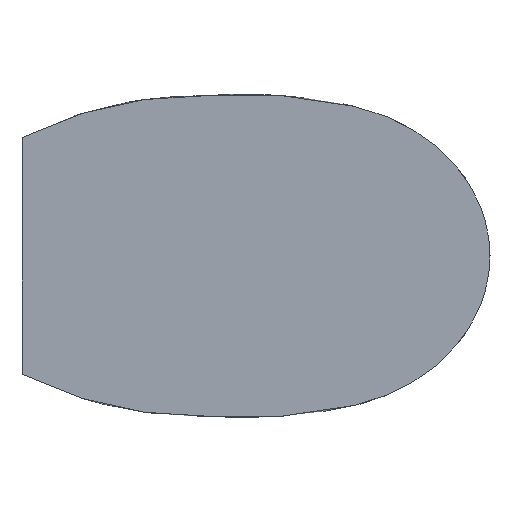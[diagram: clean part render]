
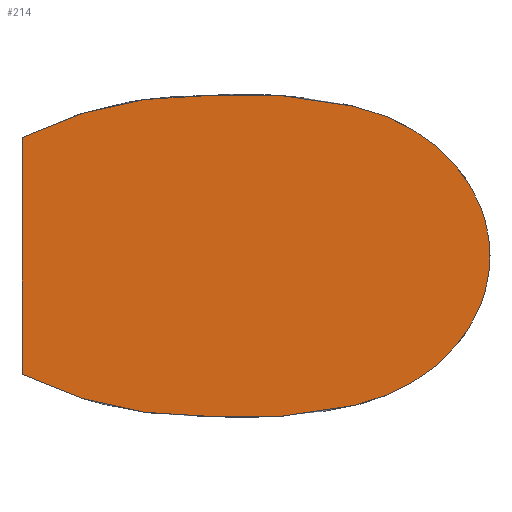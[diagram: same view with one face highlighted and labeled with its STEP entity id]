
A CAD part, left-side view. The second image highlights one B-rep face of the part: STEP entity #214.
In plain terms, the highlighted planar face has unit normal (-1, 0, 0).
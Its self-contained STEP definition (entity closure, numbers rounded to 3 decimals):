
#2=DIRECTION('',(0.,0.,-1.));
#3=VECTOR('',#2,2.127);
#4=CARTESIAN_POINT('',(-9.,-0.3,1.064));
#5=LINE('',#4,#3);
#10=CARTESIAN_POINT('',(-9.,-0.3,1.064));
#11=CARTESIAN_POINT('',(-9.,-0.453,1.141));
#12=CARTESIAN_POINT('',(-9.,-0.688,1.237));
#13=CARTESIAN_POINT('',(-9.,-1.01,1.331));
#14=CARTESIAN_POINT('',(-9.,-1.256,1.384));
#15=CARTESIAN_POINT('',(-9.,-1.466,1.414));
#16=CARTESIAN_POINT('',(-9.,-1.637,1.428));
#17=CARTESIAN_POINT('',(-9.,-1.745,1.433));
#18=CARTESIAN_POINT('',(-9.,-1.821,1.435));
#19=CARTESIAN_POINT('',(-9.,-1.864,1.435));
#20=CARTESIAN_POINT('',(-9.,-1.897,1.434));
#21=CARTESIAN_POINT('',(-9.,-1.93,1.437));
#22=CARTESIAN_POINT('',(-9.,-1.974,1.44));
#23=CARTESIAN_POINT('',(-9.,-2.052,1.445));
#24=CARTESIAN_POINT('',(-9.,-2.163,1.45));
#25=CARTESIAN_POINT('',(-9.,-2.311,1.452));
#26=CARTESIAN_POINT('',(-9.,-2.472,1.449));
#27=CARTESIAN_POINT('',(-9.,-2.648,1.439));
#28=CARTESIAN_POINT('',(-9.,-2.825,1.422));
#29=CARTESIAN_POINT('',(-9.,-3.004,1.397));
#30=CARTESIAN_POINT('',(-9.,-3.184,1.365));
#31=CARTESIAN_POINT('',(-9.,-3.425,1.312));
#32=CARTESIAN_POINT('',(-9.,-3.717,1.199));
#33=CARTESIAN_POINT('',(-9.,-4.034,0.991));
#34=CARTESIAN_POINT('',(-9.,-4.292,0.711));
#35=CARTESIAN_POINT('',(-9.,-4.463,0.371));
#36=CARTESIAN_POINT('',(-9.,-4.502,0.123));
#37=CARTESIAN_POINT('',(-9.,-4.502,0.));
#39=CARTESIAN_POINT('',(-9.,-0.3,-1.064));
#40=CARTESIAN_POINT('',(-9.,-0.453,-1.141));
#41=CARTESIAN_POINT('',(-9.,-0.688,-1.237));
#42=CARTESIAN_POINT('',(-9.,-1.01,-1.331));
#43=CARTESIAN_POINT('',(-9.,-1.256,-1.384));
#44=CARTESIAN_POINT('',(-9.,-1.466,-1.414));
#45=CARTESIAN_POINT('',(-9.,-1.637,-1.428));
#46=CARTESIAN_POINT('',(-9.,-1.745,-1.433));
#47=CARTESIAN_POINT('',(-9.,-1.821,-1.435));
#48=CARTESIAN_POINT('',(-9.,-1.864,-1.435));
#49=CARTESIAN_POINT('',(-9.,-1.897,-1.434));
#50=CARTESIAN_POINT('',(-9.,-1.93,-1.437));
#51=CARTESIAN_POINT('',(-9.,-1.974,-1.44));
#52=CARTESIAN_POINT('',(-9.,-2.052,-1.445));
#53=CARTESIAN_POINT('',(-9.,-2.163,-1.45));
#54=CARTESIAN_POINT('',(-9.,-2.311,-1.452));
#55=CARTESIAN_POINT('',(-9.,-2.472,-1.449));
#56=CARTESIAN_POINT('',(-9.,-2.648,-1.439));
#57=CARTESIAN_POINT('',(-9.,-2.825,-1.422));
#58=CARTESIAN_POINT('',(-9.,-3.004,-1.397));
#59=CARTESIAN_POINT('',(-9.,-3.184,-1.365));
#60=CARTESIAN_POINT('',(-9.,-3.425,-1.312));
#61=CARTESIAN_POINT('',(-9.,-3.717,-1.199));
#62=CARTESIAN_POINT('',(-9.,-4.034,-0.991));
#63=CARTESIAN_POINT('',(-9.,-4.292,-0.711));
#64=CARTESIAN_POINT('',(-9.,-4.463,-0.371));
#65=CARTESIAN_POINT('',(-9.,-4.502,-0.123));
#66=CARTESIAN_POINT('',(-9.,-4.502,0.));
#179=CARTESIAN_POINT('',(-9.,-0.3,1.064));
#180=CARTESIAN_POINT('',(-9.,-0.3,-1.064));
#181=VERTEX_POINT('',#179);
#182=VERTEX_POINT('',#180);
#183=VERTEX_POINT('',#37);
#202=CARTESIAN_POINT('',(-9.,0.,0.));
#203=DIRECTION('',(1.,0.,0.));
#204=DIRECTION('',(0.,0.,-1.));
#205=AXIS2_PLACEMENT_3D('',#202,#203,#204);
#206=PLANE('',#205);
#207=ORIENTED_EDGE('',*,*,#189,.F.);
#209=ORIENTED_EDGE('',*,*,#208,.T.);
#211=ORIENTED_EDGE('',*,*,#210,.F.);
#212=EDGE_LOOP('',(#207,#209,#211));
#213=FACE_OUTER_BOUND('',#212,.F.);
#214=ADVANCED_FACE('',(#213),#206,.F.);
#38=B_SPLINE_CURVE_WITH_KNOTS('',3,(#10,#11,#12,#13,#14,#15,#16,#17,#18,#19,#20,
#21,#22,#23,#24,#25,#26,#27,#28,#29,#30,#31,#32,#33,#34,#35,#36,#37),
.UNSPECIFIED.,.F.,.F.,(4,1,1,1,1,1,1,1,1,1,1,1,1,1,1,1,1,1,1,1,1,1,1,1,1,4),(
0.,0.111,0.167,0.223,0.278,
0.306,0.334,0.348,0.355,
0.362,0.369,0.376,0.39,
0.418,0.445,0.48,0.515,
0.549,0.584,0.619,0.653,
0.723,0.792,0.861,0.931,1.),
.UNSPECIFIED.);
#67=B_SPLINE_CURVE_WITH_KNOTS('',3,(#39,#40,#41,#42,#43,#44,#45,#46,#47,#48,#49,
#50,#51,#52,#53,#54,#55,#56,#57,#58,#59,#60,#61,#62,#63,#64,#65,#66),
.UNSPECIFIED.,.F.,.F.,(4,1,1,1,1,1,1,1,1,1,1,1,1,1,1,1,1,1,1,1,1,1,1,1,1,4),(
0.,0.111,0.167,0.223,0.278,
0.306,0.334,0.348,0.355,
0.362,0.369,0.376,0.39,
0.418,0.445,0.48,0.515,
0.549,0.584,0.619,0.653,
0.723,0.792,0.861,0.931,1.),
.UNSPECIFIED.);
#189=EDGE_CURVE('',#181,#182,#5,.T.);
#208=EDGE_CURVE('',#181,#183,#38,.T.);
#210=EDGE_CURVE('',#182,#183,#67,.T.);
